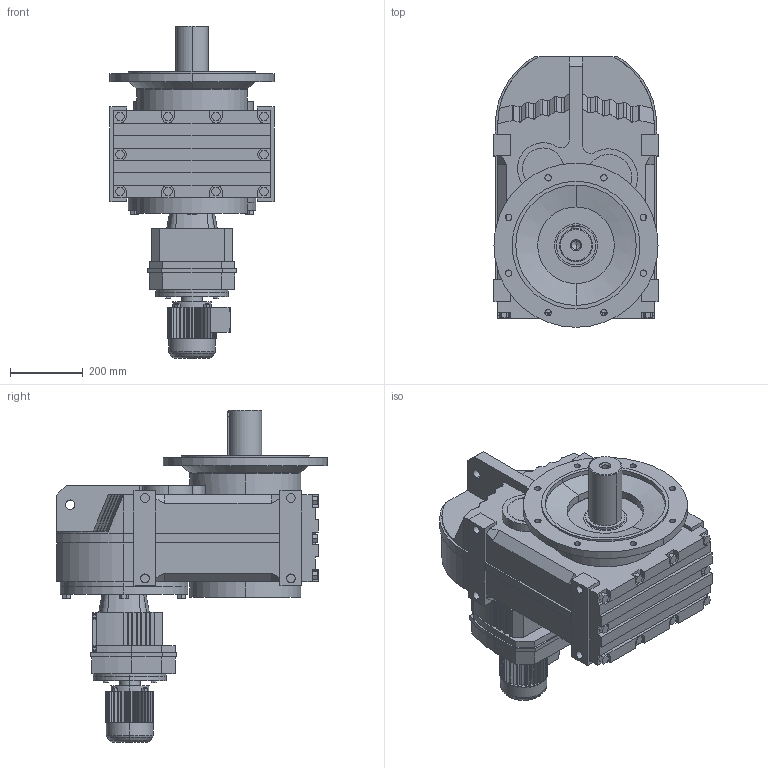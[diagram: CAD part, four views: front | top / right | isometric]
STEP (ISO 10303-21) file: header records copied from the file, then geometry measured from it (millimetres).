
FILE_DESCRIPTION(('Open CASCADE Model'),'2;1');
FILE_NAME('Open CASCADE Shape Model','2021-07-24T11:13:56',('Author'),( 'Open CASCADE'),'Open CASCADE STEP processor 6.3','Open CASCADE 6.3' ,'Unknown');
FILE_SCHEMA(('AUTOMOTIVE_DESIGN_CC2 { 1 2 10303 214 -1 1 5 4 }'));
Length unit declared in the file: millimetre
Products named in the file (6): 1_FF107R77DR63; FAZ27‵157_107.step; 萇儂_200-DR63-179-234-132-105.step; R_107_77.step; す瑩妗陑粣F_107.step; 楊擘F_107.step
Assembly tree (5 placements, depth 2):
  1_FF107R77DR63
    FAZ27‵157_107.step
    萇儂_200-DR63-179-234-132-105.step
    R_107_77.step
    す瑩妗陑粣F_107.step
    楊擘F_107.step
Bounding box: 450 x 742 x 910 mm (x, y, z)
Volume: 92870978.6 mm3; surface area: 2687744.8 mm2
Topology: 5 solids, 5 shells, 1051 faces, 2774 edges, 1812 vertices
Faces by surface type: plane 756, cylinder 255, cone 20, bspline 16, torus 4
Entity records: 71619 total; most frequent: CARTESIAN_POINT 18101, DIRECTION 9396, ORIENTED_EDGE 5544, PCURVE 5544, DEFINITIONAL_REPRESENTATION 5544, LINE 5511, VECTOR 5511, EDGE_CURVE 2772
